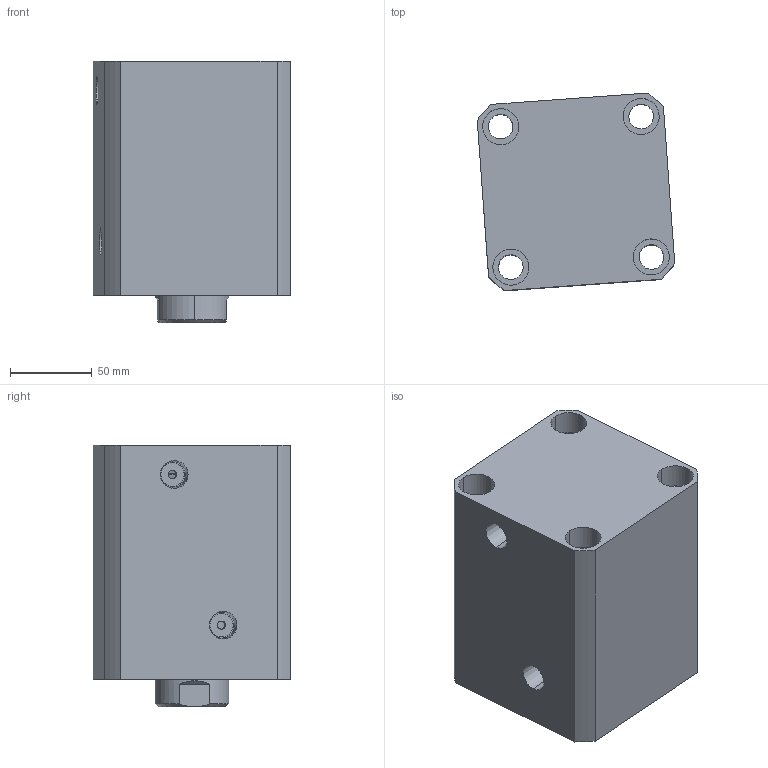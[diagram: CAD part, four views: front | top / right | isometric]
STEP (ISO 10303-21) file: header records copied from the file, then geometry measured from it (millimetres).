
FILE_DESCRIPTION (( 'STEP AP214' ), '1' );
FILE_NAME ('chtb-sd80x65n_asm.STEP', '2018-05-26T04:22:37', ( 'Windows' ), ( 'Microsoft' ), 'SwSTEP 2.0', 'SolidWorks 2015', '' );
FILE_SCHEMA (( 'AUTOMOTIVE_DESIGN' ));
Length unit declared in the file: millimetre
Products named in the file (4): chtb-sd80x65n_asm; CHTB-SD80X65NHSG; CHTB-SD80X65NBT; CHTB-SD80QG
Assembly tree (3 placements, depth 2):
  chtb-sd80x65n_asm
    CHTB-SD80QG
    CHTB-SD80X65NBT
    CHTB-SD80X65NHSG
Bounding box: 120.63 x 120.63 x 160 mm (x, y, z)
Volume: 1470797.5 mm3; surface area: 215909.7 mm2
Topology: 3 solids, 3 shells, 192 faces, 510 edges, 341 vertices
Faces by surface type: cylinder 103, plane 37, cone 20, torus 18, bspline 14
Entity records: 15144 total; most frequent: CARTESIAN_POINT 10435, ORIENTED_EDGE 1008, DIRECTION 889, EDGE_CURVE 504, AXIS2_PLACEMENT_3D 374, VERTEX_POINT 341, EDGE_LOOP 229, ADVANCED_FACE 192
